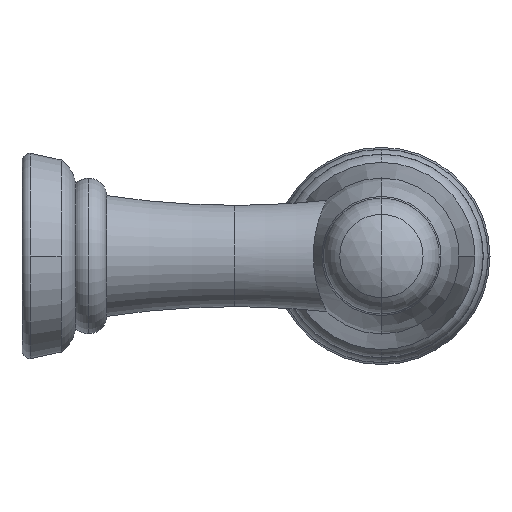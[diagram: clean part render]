
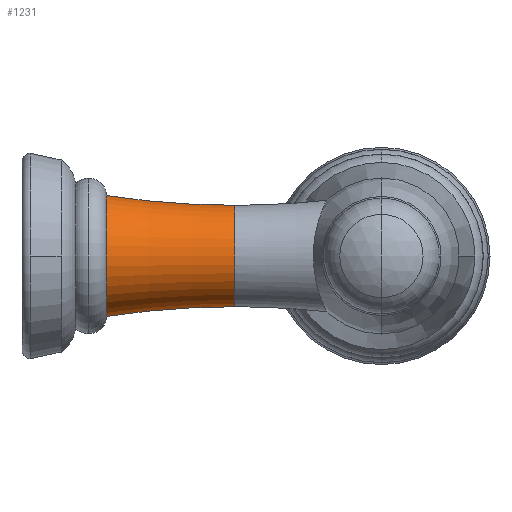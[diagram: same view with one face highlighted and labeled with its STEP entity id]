
A CAD part, left-side view. The second image highlights one B-rep face of the part: STEP entity #1231.
In plain terms, the highlighted toroidal (fillet/blend) face has major radius 53.491 mm and minor radius 50.477 mm.
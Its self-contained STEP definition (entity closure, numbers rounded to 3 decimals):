
#713 = VERTEX_POINT( '', #2079 );
#755 = VERTEX_POINT( '', #2127 );
#1231 = ADVANCED_FACE( '', ( #2653 ), #2654, .F. );
#1405 = VERTEX_POINT( '', #2846 );
#1541 = EDGE_CURVE( '', #755, #2003, #2998, .T. );
#1885 = EDGE_CURVE( '', #1405, #713, #3376, .T. );
#1903 = EDGE_CURVE( '', #713, #755, #3395, .T. );
#1939 = EDGE_CURVE( '', #2003, #1405, #3436, .T. );
#2003 = VERTEX_POINT( '', #3511 );
#2079 = CARTESIAN_POINT( '', ( 0., -12.633, 3.014 ) );
#2127 = CARTESIAN_POINT( '', ( 0., -12.633, -3.014 ) );
#2653 = FACE_OUTER_BOUND( '', #4359, .T. );
#2654 = TOROIDAL_SURFACE( '', #4360, 53.491, 50.477 );
#2846 = CARTESIAN_POINT( '', ( 0., -5.027, 3.59 ) );
#2998 = CIRCLE( '', #4809, 50.477 );
#3376 = CIRCLE( '', #5318, 50.477 );
#3395 = CIRCLE( '', #5342, 3.014 );
#3436 = CIRCLE( '', #5391, 3.59 );
#3511 = CARTESIAN_POINT( '', ( 0., -5.027, -3.59 ) );
#4359 = EDGE_LOOP( '', ( #6379, #6380, #6381, #6382 ) );
#4360 = AXIS2_PLACEMENT_3D( '', #6383, #6384, #6385 );
#4809 = AXIS2_PLACEMENT_3D( '', #6898, #6899, #6900 );
#5318 = AXIS2_PLACEMENT_3D( '', #7438, #7439, #7440 );
#5342 = AXIS2_PLACEMENT_3D( '', #7461, #7462, #7463 );
#5391 = AXIS2_PLACEMENT_3D( '', #7527, #7528, #7529 );
#6379 = ORIENTED_EDGE( '', *, *, #1903, .F. );
#6380 = ORIENTED_EDGE( '', *, *, #1885, .F. );
#6381 = ORIENTED_EDGE( '', *, *, #1939, .F. );
#6382 = ORIENTED_EDGE( '', *, *, #1541, .F. );
#6383 = CARTESIAN_POINT( '', ( 0., -12.633, 0. ) );
#6384 = DIRECTION( '', ( 0., 1., 0. ) );
#6385 = DIRECTION( '', ( 0., 0., 1. ) );
#6898 = CARTESIAN_POINT( '', ( 0., -12.633, -53.491 ) );
#6899 = DIRECTION( '', ( -1., 0., 0. ) );
#6900 = DIRECTION( '', ( 0., 0., -1. ) );
#7438 = CARTESIAN_POINT( '', ( 0., -12.633, 53.491 ) );
#7439 = DIRECTION( '', ( -1., 0., 0. ) );
#7440 = DIRECTION( '', ( 0., 0., 1. ) );
#7461 = CARTESIAN_POINT( '', ( 0., -12.633, 0. ) );
#7462 = DIRECTION( '', ( 0., -1., 0. ) );
#7463 = DIRECTION( '', ( 0., 0., 1. ) );
#7527 = CARTESIAN_POINT( '', ( 0., -5.027, 0. ) );
#7528 = DIRECTION( '', ( 0., 1., 0. ) );
#7529 = DIRECTION( '', ( 1., 0., 0. ) );
